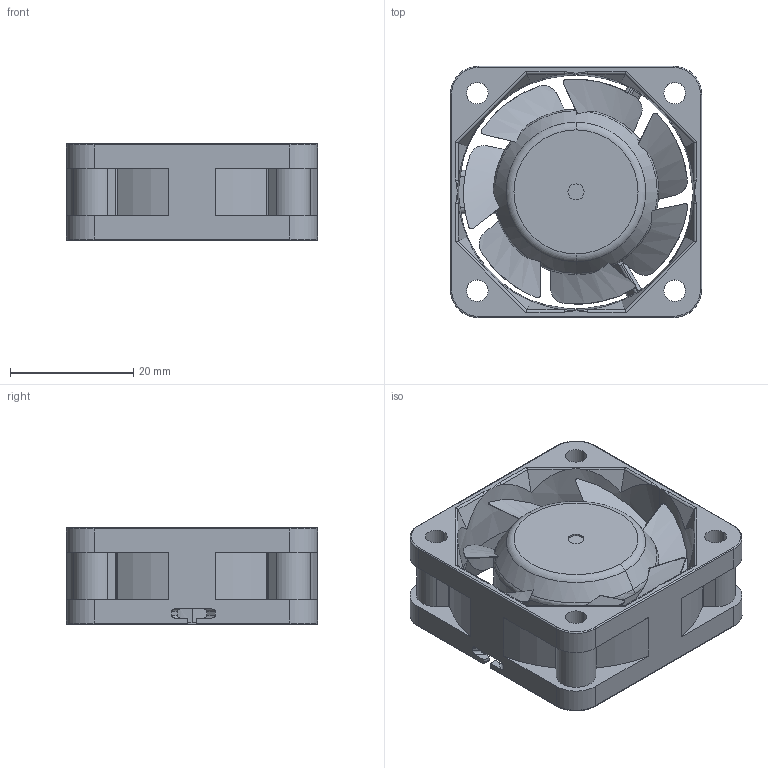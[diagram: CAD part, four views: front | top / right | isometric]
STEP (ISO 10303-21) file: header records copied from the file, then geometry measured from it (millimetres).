
FILE_DESCRIPTION (( 'STEP AP203' ), '1' );
FILE_NAME ('40X15P フレーム一式.STEP', '2017-04-03T10:17:34', ( '' ), ( '' ), 'SwSTEP 2.0', 'SolidWorks 2017', '' );
FILE_SCHEMA (( 'CONFIG_CONTROL_DESIGN' ));
Length unit declared in the file: millimetre
Products named in the file (1): 40X15P フレーム一式
Bounding box: 40.7 x 40.7 x 15.65 mm (x, y, z)
Volume: 10739.2 mm3; surface area: 11197 mm2
Topology: 1 solids, 2 shells, 331 faces, 900 edges, 558 vertices
Faces by surface type: cylinder 141, plane 108, bspline 45, cone 22, torus 15
Entity records: 12282 total; most frequent: CARTESIAN_POINT 4572, ORIENTED_EDGE 1772, DIRECTION 1388, EDGE_CURVE 886, VERTEX_POINT 558, AXIS2_PLACEMENT_3D 510, LINE 368, VECTOR 368
